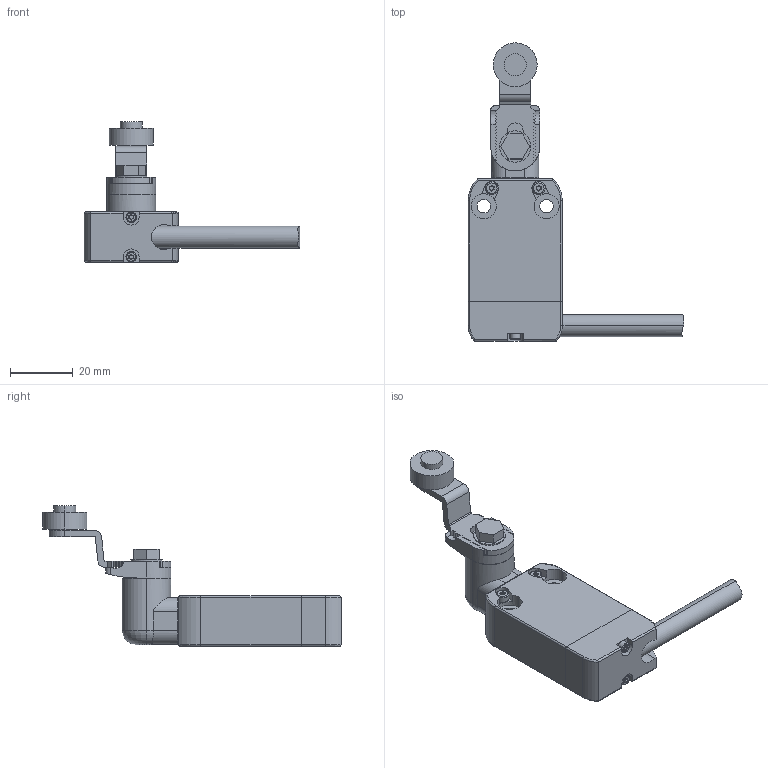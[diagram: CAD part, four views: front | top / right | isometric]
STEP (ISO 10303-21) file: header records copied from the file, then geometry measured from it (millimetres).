
FILE_DESCRIPTION (( 'STEP AP203' ), '1' );
FILE_NAME ('ZF_STEP_NF_xxx2KD-DNx.STEP', '2026-10-01T13:54:46', ( '' ), ( '' ), 'SwSTEP 2.0', 'SolidWorks 2023', '' );
FILE_SCHEMA (( 'CONFIG_CONTROL_DESIGN' ));
Length unit declared in the file: millimetre
Products named in the file (12): Pizzato_custodia_NA-NF_default; ZF_STEP_VN_AA200; ZF_STEP_VN_CxxxDNx; Pizzato_VN_AA200_default; Pizzato_vite; ZF_STEP_VN_A00KD; Pizzato_VN_A00KD; Pizzato_Supporto_leve_6325; Pizzato_VN_CxxxDNx_default; ZF_STEP_NF_xxx2KD-DNx; Pizzato_rosetta_6606_Schiacciata; Pizzato_custodia_NA-NF
Assembly tree (11 placements, depth 3):
  ZF_STEP_NF_xxx2KD-DNx
    Pizzato_custodia_NA-NF
      Pizzato_custodia_NA-NF_default
    ZF_STEP_VN_AA200
      Pizzato_VN_AA200_default
    ZF_STEP_VN_A00KD
      Pizzato_Supporto_leve_6325
      Pizzato_rosetta_6606_Schiacciata
      Pizzato_vite
      Pizzato_VN_A00KD
    ZF_STEP_VN_CxxxDNx
      Pizzato_VN_CxxxDNx_default
Bounding box: 68.74 x 95 x 44.7 mm (x, y, z)
Volume: 32231.3 mm3; surface area: 13821.5 mm2
Topology: 7 solids, 7 shells, 1003 faces, 2777 edges, 1842 vertices
Faces by surface type: plane 549, cylinder 327, bspline 108, torus 19
Entity records: 37427 total; most frequent: CARTESIAN_POINT 10746, ORIENTED_EDGE 5554, DIRECTION 4963, EDGE_CURVE 2777, VERTEX_POINT 1842, LINE 1829, VECTOR 1829, AXIS2_PLACEMENT_3D 1567
